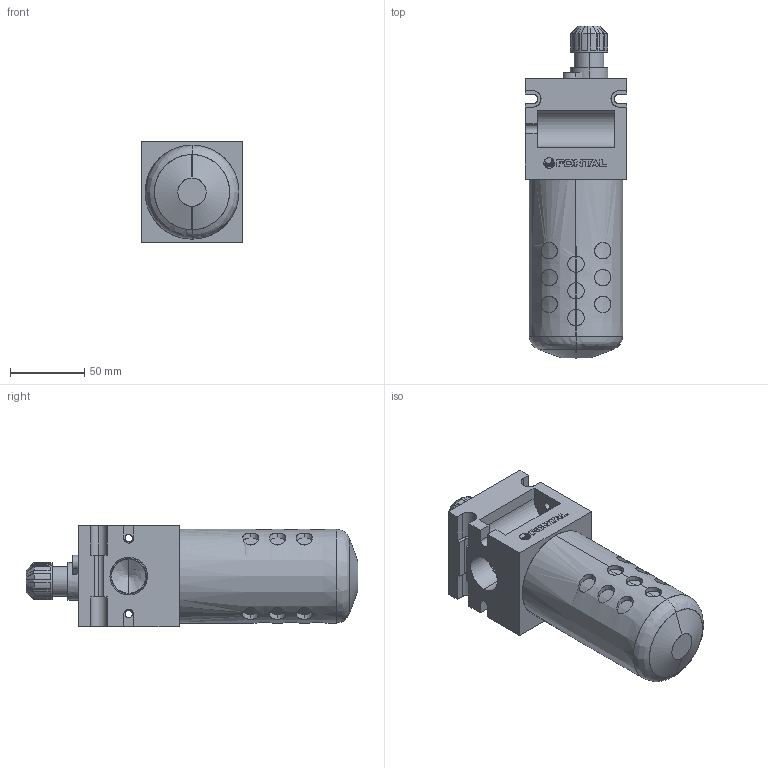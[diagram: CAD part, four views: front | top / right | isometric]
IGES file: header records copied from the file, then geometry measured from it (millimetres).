
Start section: SolidWorks IGES file using analytic representation for surfaces
Global section: file name: C:\Users\Toshiba\Desktop\L105-06#.IGS; native system: SolidWorks 2014; preprocessor: SolidWorks 2014; author: Toshiba; date: 160203.151223; units: millimetre
Bounding box: 68 x 223 x 68.2 mm (x, y, z)
Surface area: 75068.3 mm2 (no closed solid volume)
Topology: 0 solids, 0 shells, 351 faces, 5376 edges, 5372 vertices
Faces by surface type: bspline 201, revolution 150
